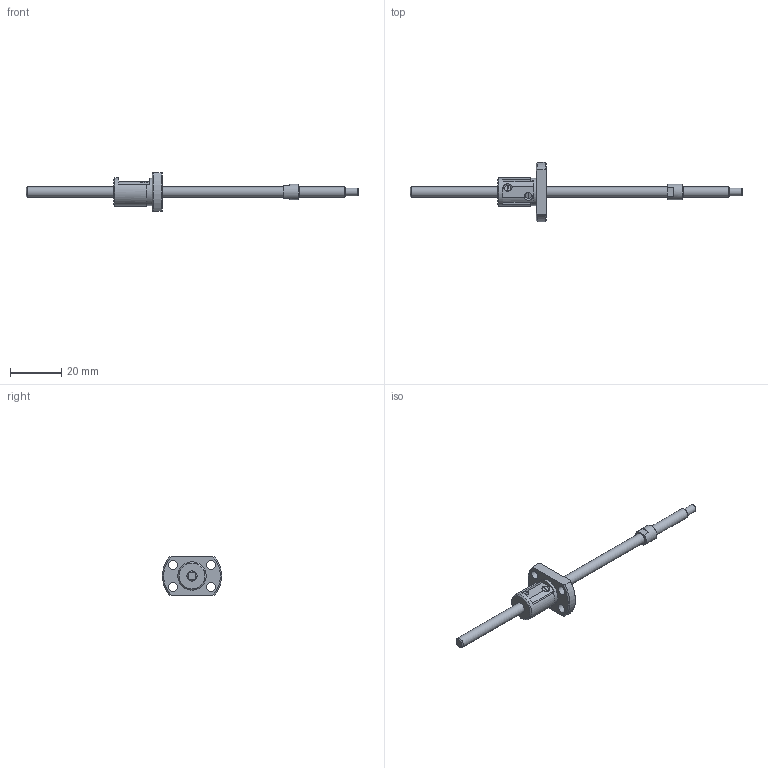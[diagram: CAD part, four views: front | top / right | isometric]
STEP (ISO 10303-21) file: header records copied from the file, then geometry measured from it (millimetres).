
FILE_DESCRIPTION(/* description */ ('STEP AP214'),/* implementation_level */ '2;1');
FILE_NAME(/* name */ 'SRT0402-096R129C10A0X(34Processing)',/* time_stamp */ '2026-08-04T17:49:41+02:00',/* author */ ('License CC BY-ND 4.0'),/* organization */ ('CADENAS'),/* preprocessor_version */ 'ST-DEVELOPER v20',/* originating_system */ 'PARTsolutions',/* authorisation */ ' ');
FILE_SCHEMA (('AUTOMOTIVE_DESIGN {1 0 10303 214 3 1 1}'));
Length unit declared in the file: millimetre
Products named in the file (3): SRT0402-096R129C10A0X(34Processing); SRT0402-96R155ACt10Processing7Shaft; SRT0402Nut
Assembly tree (2 placements, depth 2):
  SRT0402-096R129C10A0X(34Processing)
    SRT0402-96R155ACt10Processing7Shaft
    SRT0402Nut
Bounding box: 129 x 22.93 x 15 mm (x, y, z)
Volume: 3839.5 mm3; surface area: 3432.2 mm2
Topology: 2 solids, 2 shells, 61 faces, 155 edges, 102 vertices
Faces by surface type: plane 30, cylinder 17, cone 13, torus 1
Full cylindrical faces by diameter (mm): 1 x2, 3 x1, 3.4 x4, 4 x3, 6 x1, 10.6 x1, 11 x1
Entity records: 1751 total; most frequent: CARTESIAN_POINT 334, DIRECTION 288, ORIENTED_EDGE 238, AXIS2_PLACEMENT_3D 123, EDGE_CURVE 119, FACE_BOUND 100, EDGE_LOOP 98, VERTEX_POINT 91
